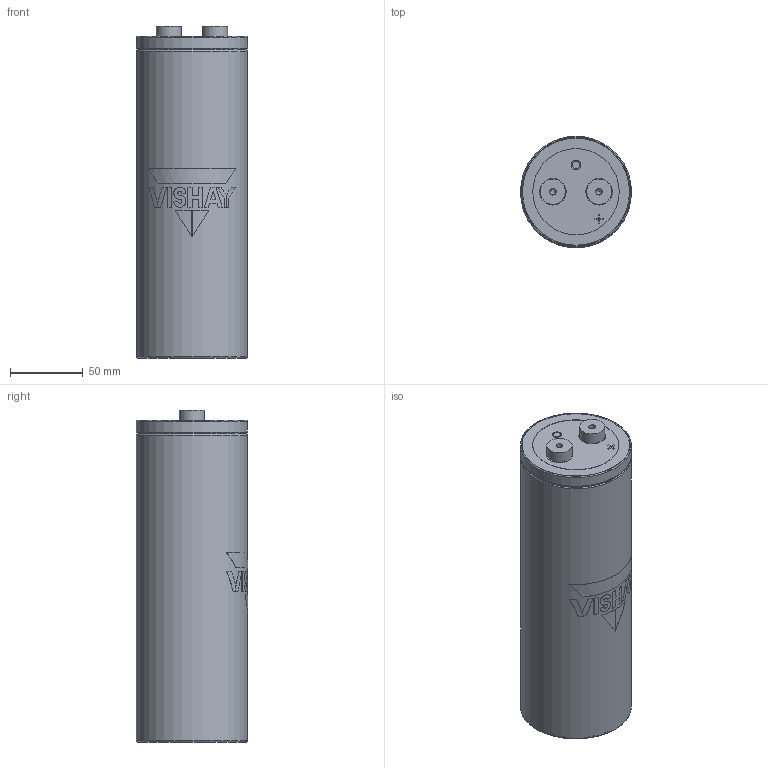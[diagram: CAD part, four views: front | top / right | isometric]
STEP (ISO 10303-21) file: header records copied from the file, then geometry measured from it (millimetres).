
FILE_DESCRIPTION(('FreeCAD Model'),'2;1');
FILE_NAME('C:/Users/tvandesteeg/Documents/Documents/FreeCAD/Stepfiles/ST capacitors/ST_HP_18mm_UNF14-28_76x220.step','2020-12-14T17:26:12',( 'Author'),(''),'Open CASCADE STEP processor 7.3','FreeCAD','Unknown' );
FILE_SCHEMA(('AUTOMOTIVE_DESIGN { 1 0 10303 214 1 1 1 1 }'));
Length unit declared in the file: millimetre
Products named in the file (8): VentBody; TerminalHole; TerminalBody_(Mirror_#2); TerminalBody; Disc; LogoPrint; CanBody; BottomBody
Bounding box: 76.4 x 76.5 x 228.4 mm (x, y, z)
Volume: 1010302.3 mm3; surface area: 90559.8 mm2
Topology: 18 solids, 18 shells, 152 faces, 316 edges, 208 vertices
Faces by surface type: plane 95, cylinder 49, torus 5, cone 3
Full cylindrical faces by diameter (mm): 4.579 x2, 5 x2, 17.3 x2, 17.8 x7, 18.3 x2, 59.422 x3, 73.6 x2, 75 x1, 76.4 x2
Entity records: 10765 total; most frequent: CARTESIAN_POINT 3371, DIRECTION 1221, ORIENTED_EDGE 628, PCURVE 628, DEFINITIONAL_REPRESENTATION 628, LINE 537, VECTOR 537, EDGE_CURVE 314
